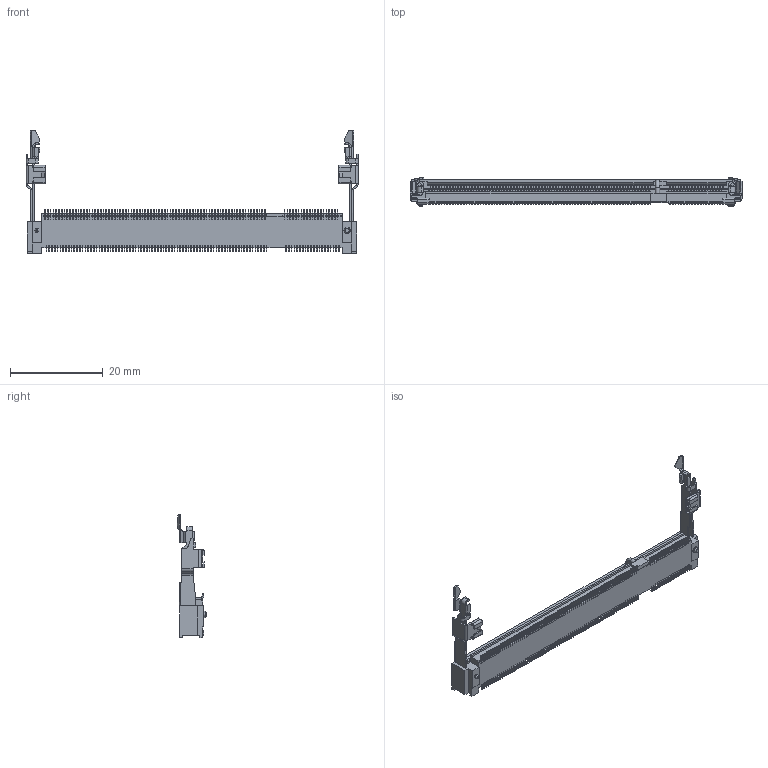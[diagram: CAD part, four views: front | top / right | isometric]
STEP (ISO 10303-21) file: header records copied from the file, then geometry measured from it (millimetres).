
FILE_DESCRIPTION(/* description */ (''),/* implementation_level */ '2;1');
FILE_NAME(/* name */ 'c-1473149-4-k2-3d',/* time_stamp */ '2019-12-31T10:05:44+01:00',/* author */ ('Marco R Bosco'),/* organization */ ('Autonomous Motion System S.L.'),/* preprocessor_version */ 'ST-DEVELOPER v16.7',/* originating_system */ 'Solid Edge',/* authorisation */ 'Unknown');
FILE_SCHEMA (('CONFIG_CONTROL_DESIGN'));
Products named in the file (1): c-1473149-4-k2-3d_1
Bounding box: 71.5 x 6.42 x 26.54 mm (x, y, z)
Volume: 2128 mm3; surface area: 3086.1 mm2
Topology: 1 solids, 1 shells, 4133 faces, 12116 edges, 7985 vertices
Faces by surface type: plane 3018, cylinder 1088, bspline 24, cone 2, torus 1
Full cylindrical faces by diameter (mm): 0.85 x1, 1.35 x1
Entity records: 165527 total; most frequent: CARTESIAN_POINT 24923, ORIENTED_EDGE 24220, DIRECTION 22480, EDGE_CURVE 12110, LINE 9906, VECTOR 9906, VERTEX_POINT 7983, AXIS2_PLACEMENT_3D 6287
